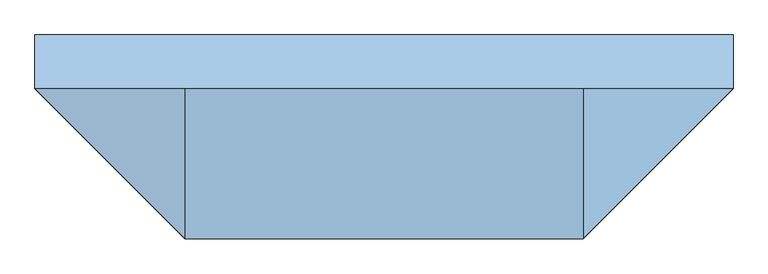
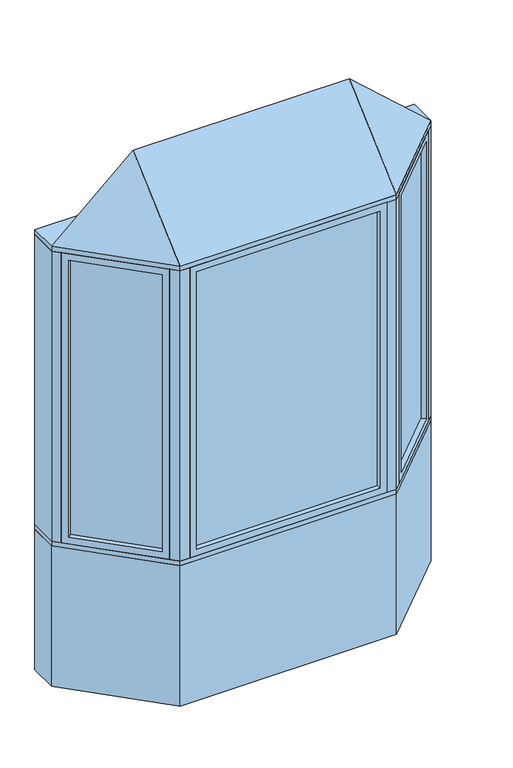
"""IFC4 building model written with IfcOpenShell, lengths in millimetres: window geometry, Pollard_Windows_Tudor Casement Bows and Bays : AML-BAY 45 AFR0516-10-500."""

from ifc_helpers import new_model, si_unit, frame, origin, origin_with_axes, place, context, project, spatial, polyline, outline, extrude, faceted_brep, source, transform, mapped, element, save


def window_e42af8b7(model_context):
    return source(origin(), model_context, "Body", "SolidModel", [
        extrude(outline(polyline([(924.0964271, -104.763169), (598.324814, -430.5347822), (594.7327115, -426.9426797), (920.5043247, -101.1710666), (924.0964271, -104.763169)])), frame((0.0, 0.0, 823.1628), z_axis=(0.0, 0.0, 1.0), x_axis=(1.0, 0.0, 0.0)), (0.0, 0.0, 1.0), 1553.6704),
        faceted_brep([(915.116171, -113.7434252, 835.8628), (933.0766833, -131.7039374, 835.8628), (933.0766833, -131.7039374, 2364.1332), (915.116171, -113.7434252, 2364.1332), (920.5043247, -101.1710666, 823.1628), (924.0964271, -104.763169, 823.1628), (924.0964271, -104.763169, 2376.8332), (920.5043247, -101.1710666, 2376.8332), (893.5635563, -92.1908105, 835.8628), (911.5240686, -110.1513227, 835.8628), (911.5240686, -110.1513227, 2364.1332), (893.5635563, -92.1908105, 2364.1332), (958.4369265, -106.3436941, 799.998), (918.9237996, -66.8305672, 799.998), (918.9237996, -66.8305672, 2399.998), (958.4369265, -106.3436941, 2399.998), (625.2655823, -439.5150383, 2364.1332), (607.3050701, -421.5545261, 2364.1332), (598.324814, -430.5347822, 2376.8332), (594.7327115, -426.9426797, 2376.8332), (603.7129677, -417.9624236, 2364.1332), (585.7524554, -400.0019114, 2364.1332), (560.3922121, -425.3621547, 2399.998), (599.9053391, -464.8752816, 2399.998), (625.2655823, -439.5150383, 835.8628), (607.3050701, -421.5545261, 835.8628), (598.324814, -430.5347822, 823.1628), (594.7327115, -426.9426797, 823.1628), (603.7129677, -417.9624236, 835.8628), (585.7524554, -400.0019114, 835.8628), (560.3922121, -425.3621547, 799.998), (599.9053391, -464.8752816, 799.998)], [[[0, 1, 2, 3]], [[4, 5, 6, 7]], [[8, 9, 10, 11]], [[12, 13, 14, 15]], [[3, 2, 16, 17]], [[7, 6, 18, 19]], [[11, 10, 20, 21]], [[15, 14, 22, 23]], [[17, 16, 24, 25]], [[19, 18, 26, 27]], [[21, 20, 28, 29]], [[23, 22, 30, 31]], [[25, 24, 1, 0]], [[5, 26, 18, 6], [3, 17, 25, 0]], [[27, 26, 5, 4]], [[7, 19, 27, 4], [9, 28, 20, 10]], [[29, 28, 9, 8]], [[13, 30, 22, 14], [11, 21, 29, 8]], [[31, 30, 13, 12]], [[15, 23, 31, 12], [1, 24, 16, 2]]]),
        extrude(outline(polyline([(-598.324814, -430.5347822), (-924.0964271, -104.763169), (-920.5043247, -101.1710666), (-594.7327115, -426.9426797), (-598.324814, -430.5347822)])), frame((0.0, 0.0, 823.1628), z_axis=(0.0, 0.0, 1.0), x_axis=(1.0, 0.0, 0.0)), (0.0, 0.0, 1.0), 1553.6704),
        faceted_brep([(-603.7129677, -417.9624236, 2364.1332), (-585.7524554, -400.0019114, 2364.1332), (-585.7524554, -400.0019114, 835.8628), (-603.7129677, -417.9624236, 835.8628), (-598.324814, -430.5347822, 2376.8332), (-594.7327115, -426.9426797, 2376.8332), (-594.7327115, -426.9426797, 823.1628), (-598.324814, -430.5347822, 823.1628), (-625.2655823, -439.5150383, 2364.1332), (-607.3050701, -421.5545261, 2364.1332), (-607.3050701, -421.5545261, 835.8628), (-625.2655823, -439.5150383, 835.8628), (-560.3922121, -425.3621547, 2399.998), (-599.9053391, -464.8752816, 2399.998), (-599.9053391, -464.8752816, 799.998), (-560.3922121, -425.3621547, 799.998), (-893.5635563, -92.1908105, 835.8628), (-911.5240686, -110.1513227, 835.8628), (-920.5043247, -101.1710666, 823.1628), (-924.0964271, -104.763169, 823.1628), (-915.116171, -113.7434252, 835.8628), (-933.0766833, -131.7039374, 835.8628), (-958.4369265, -106.3436941, 799.998), (-918.9237996, -66.8305672, 799.998), (-893.5635563, -92.1908105, 2364.1332), (-911.5240686, -110.1513227, 2364.1332), (-920.5043247, -101.1710666, 2376.8332), (-924.0964271, -104.763169, 2376.8332), (-915.116171, -113.7434252, 2364.1332), (-933.0766833, -131.7039374, 2364.1332), (-958.4369265, -106.3436941, 2399.998), (-918.9237996, -66.8305672, 2399.998)], [[[0, 1, 2, 3]], [[4, 5, 6, 7]], [[8, 9, 10, 11]], [[12, 13, 14, 15]], [[3, 2, 16, 17]], [[7, 6, 18, 19]], [[11, 10, 20, 21]], [[15, 14, 22, 23]], [[17, 16, 24, 25]], [[19, 18, 26, 27]], [[21, 20, 28, 29]], [[23, 22, 30, 31]], [[15, 23, 31, 12], [1, 24, 16, 2]], [[25, 24, 1, 0]], [[5, 26, 18, 6], [3, 17, 25, 0]], [[27, 26, 5, 4]], [[7, 19, 27, 4], [9, 28, 20, 10]], [[29, 28, 9, 8]], [[13, 30, 22, 14], [11, 21, 29, 8]], [[31, 30, 13, 12]]]),
        extrude(outline(polyline([(491.3852, -474.8306207), (-491.3852, -474.8306207), (-491.3852, -469.7506207), (491.3852, -469.7506207), (491.3852, -474.8306207)])), frame((0.0, 0.0, 823.1628), z_axis=(0.0, 0.0, 1.0), x_axis=(1.0, 0.0, 0.0)), (0.0, 0.0, 1.0), 1553.6704),
        faceted_brep([(478.6852, -474.8306207, 835.8628), (478.6852, -500.2306207, 835.8628), (478.6852, -500.2306207, 2364.1332), (478.6852, -474.8306207, 2364.1332), (491.3852, -469.7506207, 823.1628), (491.3852, -474.8306207, 823.1628), (491.3852, -474.8306207, 2376.8332), (491.3852, -469.7506207, 2376.8332), (478.6852, -444.3506207, 835.8628), (478.6852, -469.7506207, 835.8628), (478.6852, -469.7506207, 2364.1332), (478.6852, -444.3506207, 2364.1332), (514.55, -500.2306207, 799.998), (514.55, -444.3506207, 799.998), (514.55, -444.3506207, 2399.998), (514.55, -500.2306207, 2399.998), (-478.6852, -500.2306207, 2364.1332), (-478.6852, -474.8306207, 2364.1332), (-491.3852, -474.8306207, 2376.8332), (-491.3852, -469.7506207, 2376.8332), (-478.6852, -469.7506207, 2364.1332), (-478.6852, -444.3506207, 2364.1332), (-514.55, -444.3506207, 2399.998), (-514.55, -500.2306207, 2399.998), (-478.6852, -500.2306207, 835.8628), (-478.6852, -474.8306207, 835.8628), (-491.3852, -474.8306207, 823.1628), (-491.3852, -469.7506207, 823.1628), (-478.6852, -469.7506207, 835.8628), (-478.6852, -444.3506207, 835.8628), (-514.55, -444.3506207, 799.998), (-514.55, -500.2306207, 799.998)], [[[0, 1, 2, 3]], [[4, 5, 6, 7]], [[8, 9, 10, 11]], [[12, 13, 14, 15]], [[3, 2, 16, 17]], [[7, 6, 18, 19]], [[11, 10, 20, 21]], [[15, 14, 22, 23]], [[17, 16, 24, 25]], [[19, 18, 26, 27]], [[21, 20, 28, 29]], [[23, 22, 30, 31]], [[15, 23, 31, 12], [1, 24, 16, 2]], [[25, 24, 1, 0]], [[5, 26, 18, 6], [3, 17, 25, 0]], [[27, 26, 5, 4]], [[7, 19, 27, 4], [9, 28, 20, 10]], [[29, 28, 9, 8]], [[13, 30, 22, 14], [11, 21, 29, 8]], [[31, 30, 13, 12]]]),
        faceted_brep([(990.0, -74.7806207, 2425.398), (564.55, -500.2306207, 2425.398), (-564.55, -500.2306207, 2425.398), (-990.0, -74.7806207, 2425.398), (-564.55, -74.7806207, 2806.398), (564.55, -74.7806207, 2806.398)], [[[0, 1, 2, 3]], [[3, 2, 4]], [[2, 1, 5, 4]], [[1, 0, 5]], [[0, 3, 4, 5]]]),
        extrude(outline(polyline([(-990.0, 77.6193793), (990.0, 77.6193793), (990.0, -74.7806207), (564.55, -500.2306207), (-564.55, -500.2306207), (-990.0, -74.7806207), (-990.0, 77.6193793)])), frame((0.0, 0.0, 2399.998), z_axis=(0.0, 0.0, 1.0), x_axis=(1.0, 0.0, 0.0)), (0.0, 0.0, 1.0), 25.4),
        extrude(outline(polyline([(-990.0, -74.7806207), (-990.0, 77.6193793), (-926.8738531, 77.6193793), (-926.8738531, -74.7806207), (-958.4369265, -106.3436941), (-990.0, -74.7806207)])), frame((0.0, 0.0, 799.998), z_axis=(0.0, 0.0, 1.0), x_axis=(1.0, 0.0, 0.0)), (0.0, 0.0, 1.0), 1600.0),
        extrude(outline(polyline([(990.0, 77.6193793), (990.0, -74.7806207), (958.4369265, -106.3436941), (926.8738531, -74.7806207), (926.8738531, 77.6193793), (990.0, 77.6193793)])), frame((0.0, 0.0, 799.998), z_axis=(0.0, 0.0, 1.0), x_axis=(1.0, 0.0, 0.0)), (0.0, 0.0, 1.0), 1600.0),
        extrude(outline(polyline([(564.55, -500.2306207), (514.55, -500.2306207), (514.55, -450.2306207), (543.8393219, -450.2306207), (564.55, -429.5199425), (599.9053391, -464.8752816), (564.55, -500.2306207)])), frame((0.0, 0.0, 799.998), z_axis=(0.0, 0.0, 1.0), x_axis=(1.0, 0.0, 0.0)), (0.0, 0.0, 1.0), 1600.0),
        extrude(outline(polyline([(-564.55, -500.2306207), (-599.9053391, -464.8752816), (-564.55, -429.5199425), (-543.8393219, -450.2306207), (-514.55, -450.2306207), (-514.55, -500.2306207), (-564.55, -500.2306207)])), frame((0.0, 0.0, 799.998), z_axis=(0.0, 0.0, 1.0), x_axis=(1.0, 0.0, 0.0)), (0.0, 0.0, 1.0), 1600.0),
        extrude(outline(polyline([(-564.55, -500.2306207), (-990.0, -74.7806207), (-990.0, 77.6193793), (-926.8738531, 77.6193793), (-501.4238531, -347.8306207), (501.4238531, -347.8306207), (926.8738531, 77.6193793), (990.0, 77.6193793), (990.0, -74.7806207), (564.55, -500.2306207), (-564.55, -500.2306207)])), frame((0.0, 0.0, 774.598), z_axis=(0.0, 0.0, 1.0), x_axis=(1.0, 0.0, 0.0)), (0.0, 0.0, 1.0), 25.4),
        extrude(outline(polyline([(-990.0, -74.7806207), (-990.0, 77.6193793), (-926.8738531, 77.6193793), (-501.4238531, -347.8306207), (501.4238531, -347.8306207), (926.8738531, 77.6193793), (990.0, 77.6193793), (990.0, -74.7806207), (564.55, -500.2306207), (-564.55, -500.2306207), (-990.0, -74.7806207)])), origin_with_axes(), (0.0, 0.0, 1.0), 774.598),
    ])


if __name__ == "__main__":
    model = new_model("IFC4")
    model_context = context("Model", 3, world=origin())
    ifc_project = project(units=[si_unit("LENGTHUNIT", "METRE", prefix="MILLI")], contexts=[model_context])
    site = spatial("IfcSite", under=ifc_project)
    building = spatial("IfcBuilding", under=site)
    placement = place(None, origin())
    window_shape = window_e42af8b7(model_context)
    element("IfcWindow", 1, ObjectType="Pollard_Windows_Tudor Casement Bows and Bays : AML-BAY 45 AFR0516-10-500", at=placement, inside=building, context=model_context, shape_type="MappedRepresentation", body=[
        mapped(window_shape, transform((0.0, 0.0, 0.0), x_axis=(1.0, 0.0, 0.0), y_axis=(0.0, 1.0, 0.0), z_axis=(0.0, 0.0, 1.0))),
    ])
    save(model, "model.ifc")
